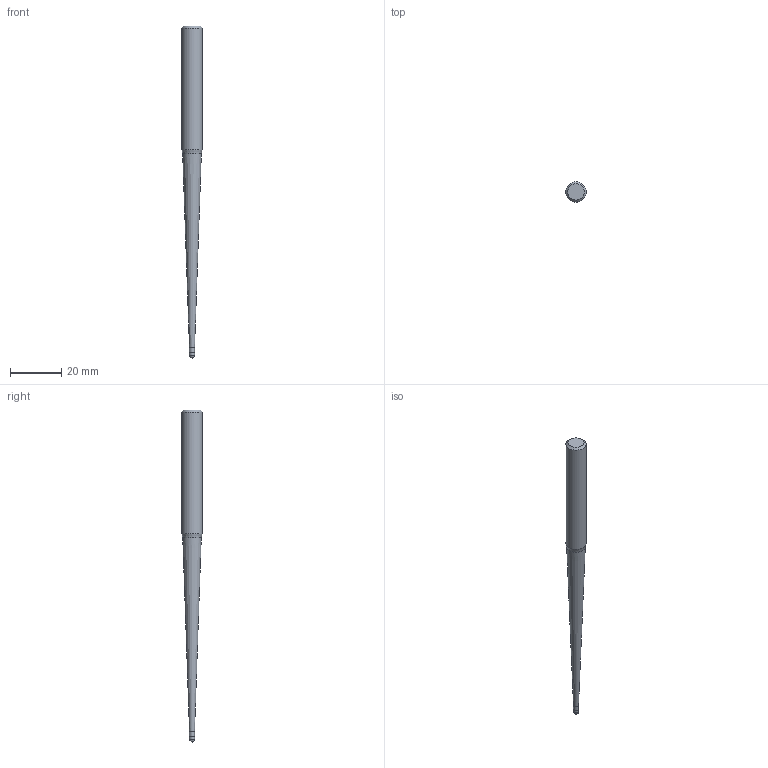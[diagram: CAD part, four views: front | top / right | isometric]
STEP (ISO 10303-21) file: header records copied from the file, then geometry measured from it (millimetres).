
FILE_DESCRIPTION((''),'2;1');
FILE_NAME('C:\Users\nsx150\AppData\Local\Temp\Mastercam 2021\SNAKH10GOD\TEMP.step','2021-10-21T13:33:18',(''),(''),'STEP Write','Mastercam 2021 ... CNC Software, Inc.','');
FILE_SCHEMA(('AUTOMOTIVE_DESIGN'));
Length unit declared in the file: millimetre
Products named in the file (1): None
Bounding box: 8 x 8 x 130 mm (x, y, z)
Volume: 3940.7 mm3; surface area: 2435 mm2
Topology: 2 solids, 2 shells, 10 faces, 16 edges, 9 vertices
Faces by surface type: plane 3, cylinder 3, cone 3, sphere 1
Full cylindrical faces by diameter (mm): 1.985 x1, 2 x1, 8 x1
Entity records: 232 total; most frequent: DIRECTION 40, CARTESIAN_POINT 28, AXIS2_PLACEMENT_3D 20, ORIENTED_EDGE 16, EDGE_LOOP 16, STYLED_ITEM 13, ADVANCED_FACE 10, FACE_BOUND 9
